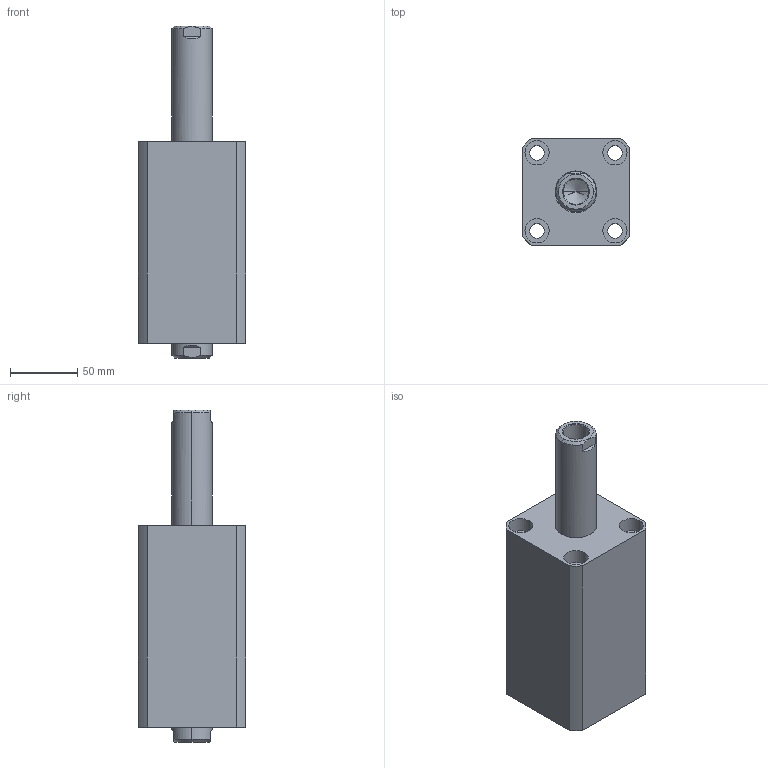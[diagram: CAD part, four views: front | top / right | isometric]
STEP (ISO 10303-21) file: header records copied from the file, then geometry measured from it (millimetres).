
FILE_DESCRIPTION (( 'STEP AP203' ), '1' );
FILE_NAME ('CHTB-SW50-75N.STEP', '2018-05-21T07:00:51', ( '' ), ( '' ), 'SwSTEP 2.0', 'SolidWorks 2015', '' );
FILE_SCHEMA (( 'CONFIG_CONTROL_DESIGN' ));
Length unit declared in the file: millimetre
Products named in the file (4): ヶ裔; CHTB-SW50-75N; 掛极SW50-75N; 活塞杆SW50-75N
Assembly tree (3 placements, depth 2):
  CHTB-SW50-75N
    掛极SW50-75N
    活塞杆SW50-75N
    ヶ裔
Bounding box: 80 x 80 x 247 mm (x, y, z)
Volume: 823588.2 mm3; surface area: 151267.4 mm2
Topology: 3 solids, 3 shells, 225 faces, 528 edges, 331 vertices
Faces by surface type: cylinder 118, plane 46, cone 33, torus 24, bspline 4
Entity records: 9698 total; most frequent: CARTESIAN_POINT 4235, DIRECTION 1104, ORIENTED_EDGE 1040, EDGE_CURVE 520, AXIS2_PLACEMENT_3D 462, VERTEX_POINT 331, EDGE_LOOP 271, CIRCLE 235
